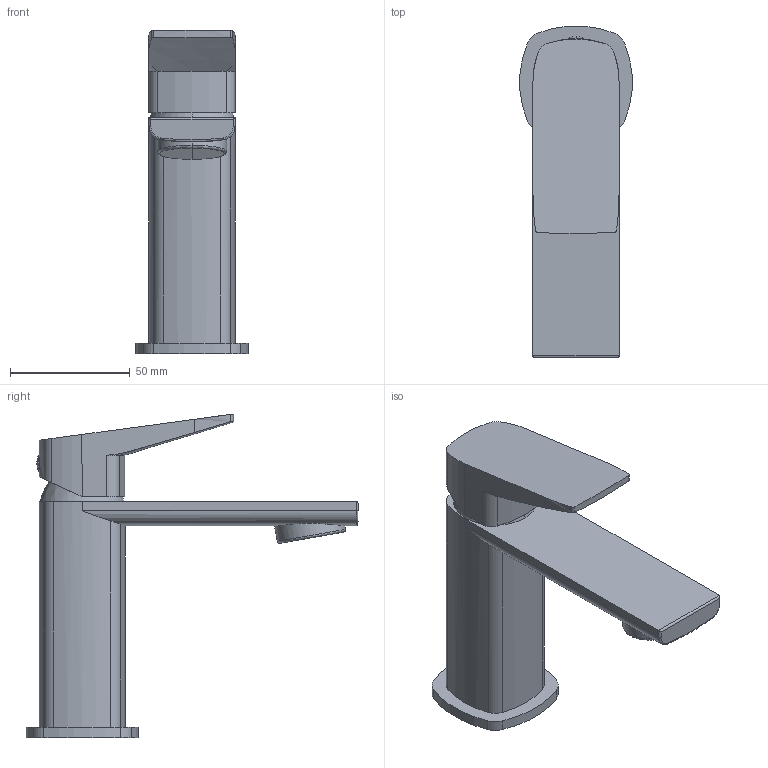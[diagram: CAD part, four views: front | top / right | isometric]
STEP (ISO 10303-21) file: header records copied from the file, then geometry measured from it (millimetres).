
FILE_DESCRIPTION(('FreeCAD Model'),'2;1');
FILE_NAME('Open CASCADE Shape Model','2024-11-19T13:43:02',('Author'),( ''),'Open CASCADE STEP processor 7.6','FreeCAD','Unknown');
FILE_SCHEMA(('AUTOMOTIVE_DESIGN { 1 0 10303 214 1 1 1 1 }'));
Length unit declared in the file: millimetre
Products named in the file (3): TopLevelAssembly; Obrót profilu; Połączona geometria bryłowa
Assembly tree (2 placements, depth 2):
  TopLevelAssembly
    Obrót profilu
    Połączona geometria bryłowa
Bounding box: 46.88 x 138.83 x 135.48 mm (x, y, z)
Volume: 195364.9 mm3; surface area: 33010.6 mm2
Topology: 2 solids, 2 shells, 71 faces, 175 edges, 109 vertices
Faces by surface type: cylinder 42, plane 17, bspline 12
Entity records: 2402 total; most frequent: CARTESIAN_POINT 695, DIRECTION 353, ORIENTED_EDGE 346, EDGE_CURVE 173, AXIS2_PLACEMENT_3D 144, VERTEX_POINT 109, FACE_BOUND 74, EDGE_LOOP 74
